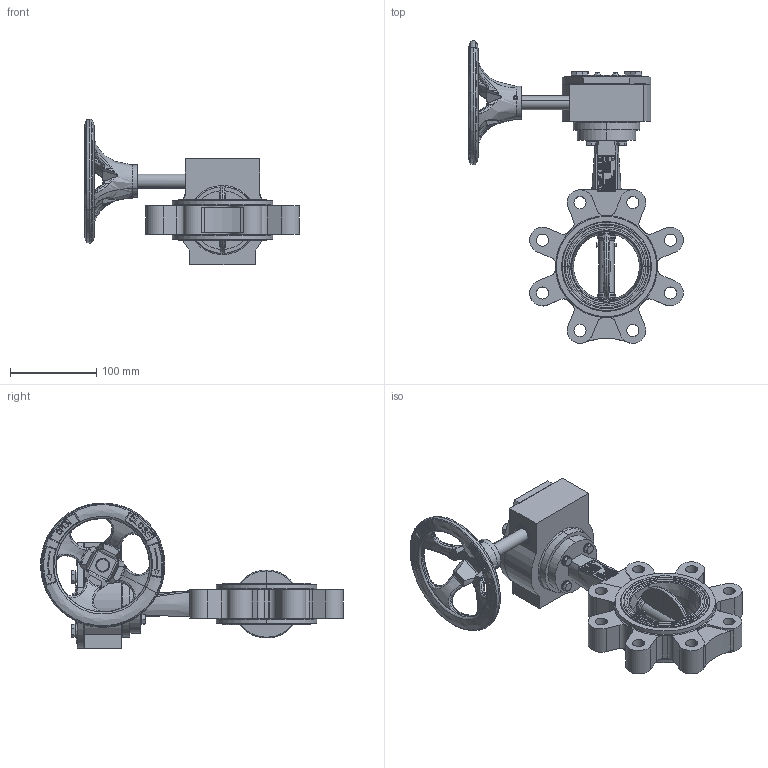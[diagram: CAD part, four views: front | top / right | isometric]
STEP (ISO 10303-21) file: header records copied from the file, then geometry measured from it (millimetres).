
FILE_DESCRIPTION (( 'STEP AP214' ), '1' );
FILE_NAME ('VPG464X-08XX0080.step', '2022-06-30T08:16:30', ( '' ), ( '' ), 'SwSTEP 2.0', 'SolidWorks 2020', '' );
FILE_SCHEMA (( 'AUTOMOTIVE_DESIGN' ));
Length unit declared in the file: millimetre
Products named in the file (1): VPG464X-08XX0080
Bounding box: 248.36 x 350.31 x 168.91 mm (x, y, z)
Surface area: 220861.5 mm2 (no closed solid volume)
Topology: 0 solids, 78 shells, 1011 faces, 6069 edges, 5016 vertices
Faces by surface type: plane 531, cylinder 198, bspline 189, cone 89, torus 4
Entity records: 92898 total; most frequent: CARTESIAN_POINT 39604, ORIENTED_EDGE 8192, DIRECTION 6901, EDGE_CURVE 6053, VERTEX_POINT 5016, VECTOR 3693, LINE 3693, AXIS2_PLACEMENT_3D 1604
